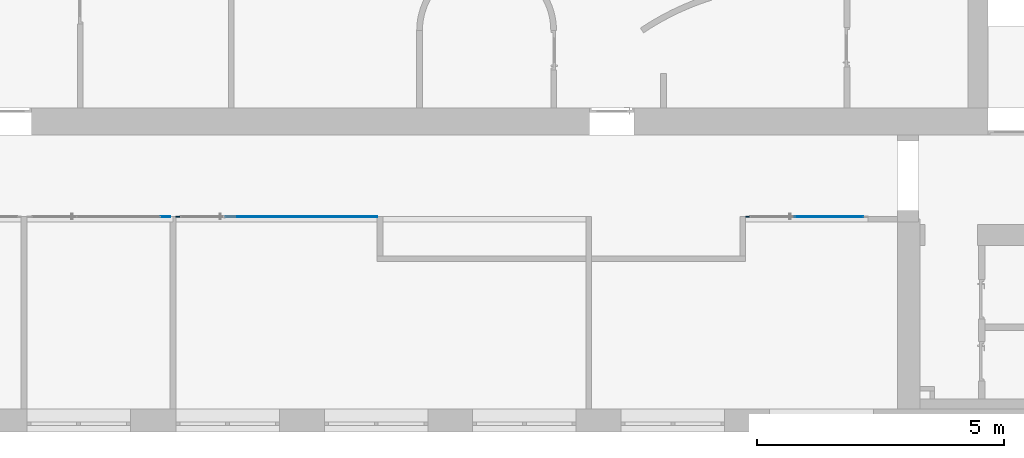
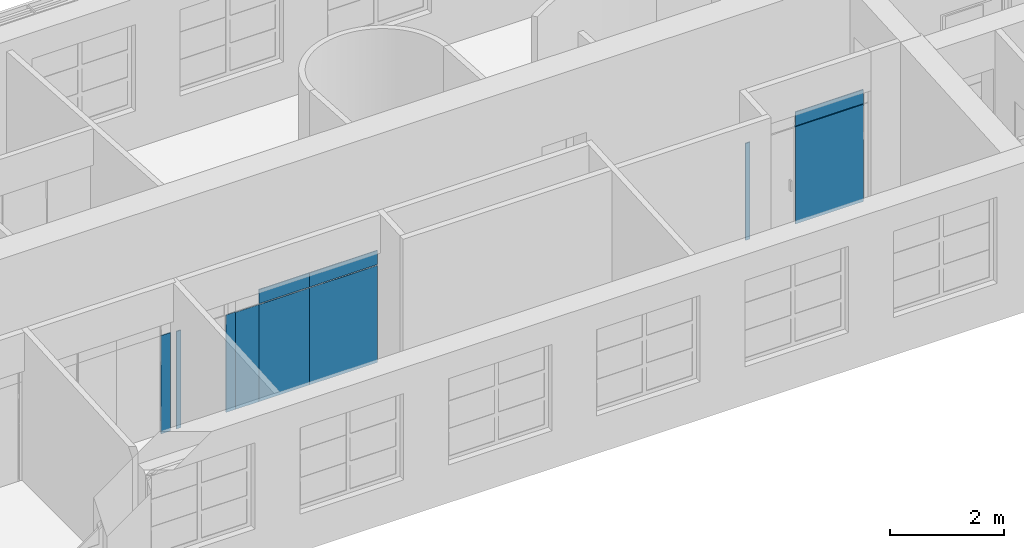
# One storey, part 15 of 46: 12 plates, 3 elements without a shape of their own.
"""IFC2X3 building model written with IfcOpenShell, lengths in millimetres."""

from ifc_helpers import new_model, entity, si_unit, converted_unit, derived_unit, direction, frame, origin, origin_2d_with_axis, place, context, subcontext, project, spatial, rectangle, extrude, source, transform, mapped, material, layer, layer_set, layer_usage, type_object, type_shapes, element, aggregate, save


model = new_model("IFC2X3")

# Units and contexts
model_context = context("Model", 3, precision=0.01, world=origin(), true_north=direction((6.12303176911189e-17, 1.0)))
body_context = subcontext(model_context, "Body", "Model", "MODEL_VIEW")
ifc_project = project(units=[si_unit("LENGTHUNIT", "METRE", prefix="MILLI"), si_unit("AREAUNIT", "SQUARE_METRE"), si_unit("VOLUMEUNIT", "CUBIC_METRE"), converted_unit("PLANEANGLEUNIT", "DEGREE", entity("IfcRatioMeasure", 0.0174532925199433), si_unit("PLANEANGLEUNIT", "RADIAN"), dimensions=[0, 0, 0, 0, 0, 0, 0]), si_unit("MASSUNIT", "GRAM", prefix="KILO"), derived_unit("MASSDENSITYUNIT", [(si_unit("MASSUNIT", "GRAM", prefix="KILO"), 1), (si_unit("LENGTHUNIT", "METRE"), -3)]), si_unit("TIMEUNIT", "SECOND"), si_unit("FREQUENCYUNIT", "HERTZ"), si_unit("THERMODYNAMICTEMPERATUREUNIT", "DEGREE_CELSIUS"), derived_unit("THERMALTRANSMITTANCEUNIT", [(si_unit("MASSUNIT", "GRAM", prefix="KILO"), 1), (si_unit("THERMODYNAMICTEMPERATUREUNIT", "KELVIN"), -1), (si_unit("TIMEUNIT", "SECOND"), -3)]), derived_unit("VOLUMETRICFLOWRATEUNIT", [(si_unit("LENGTHUNIT", "METRE"), 3), (si_unit("TIMEUNIT", "SECOND"), -1)]), si_unit("ELECTRICCURRENTUNIT", "AMPERE"), si_unit("ELECTRICVOLTAGEUNIT", "VOLT"), si_unit("POWERUNIT", "WATT"), si_unit("FORCEUNIT", "NEWTON", prefix="KILO"), si_unit("ILLUMINANCEUNIT", "LUX"), si_unit("LUMINOUSFLUXUNIT", "LUMEN"), si_unit("LUMINOUSINTENSITYUNIT", "CANDELA"), derived_unit("USERDEFINED", [(si_unit("MASSUNIT", "GRAM", prefix="KILO"), -1), (si_unit("LENGTHUNIT", "METRE"), -2), (si_unit("TIMEUNIT", "SECOND"), 3), (si_unit("LUMINOUSFLUXUNIT", "LUMEN"), 1)]), derived_unit("LINEARVELOCITYUNIT", [(si_unit("LENGTHUNIT", "METRE"), 1), (si_unit("TIMEUNIT", "SECOND"), -1)]), si_unit("PRESSUREUNIT", "PASCAL"), derived_unit("USERDEFINED", [(si_unit("LENGTHUNIT", "METRE"), -2), (si_unit("MASSUNIT", "GRAM", prefix="KILO"), 1), (si_unit("TIMEUNIT", "SECOND"), -2)])], contexts=[model_context])

# Site, building, storey
site_placement = place(None, frame((-151.875543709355, 2715.0, 0.0)))
site = spatial("IfcSite", under=ifc_project, at=site_placement, Name="Surface", CompositionType="ELEMENT")
building_placement = place(site_placement, origin())
building = spatial("IfcBuilding", under=site, at=building_placement, CompositionType="ELEMENT")
storey_placement = place(building_placement, frame((0.0, 0.0, 10060.0)))
storey = spatial("IfcBuildingStorey", under=building, at=storey_placement, Name="4 korrus", CompositionType="ELEMENT", Elevation=10060.0000000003)

# Curtain wall, plates
curtain_wall_type_1 = type_object("IfcCurtainWallType", Name="Curtain Wall:Klaassein KLS-20", PredefinedType="NOTDEFINED")
curtain_wall_1_placement = place(storey_placement, frame((0.0, 0.0, -10060.0)))
curtain_wall_1 = element("IfcCurtainWall", 1, at=curtain_wall_1_placement, inside=storey, type_object=curtain_wall_type_1, Name="Curtain Wall:Klaassein KLS-20", ObjectType="Curtain Wall:Klaassein KLS-20")
ifc_material = material(Name="<Unnamed>")
ifc_layer = layer(ifc_material, 20.0)
ifc_layer_set = layer_set([ifc_layer], Name="Curtain Wall:Klaassein KLS-01")
ifc_layer_usage_1 = layer_usage(ifc_layer_set, "AXIS3", "POSITIVE", 0.0)
plate_type_1 = type_object("IfcPlateType", Name="Glazed", PredefinedType="CURTAIN_PANEL", material=ifc_layer_set)
shared_shape_1 = source(origin(), body_context, "Body", "SweptSolid", [
    extrude(rectangle(XDim=20.0, YDim=1378.52311291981, at=origin_2d_with_axis()), frame((0.0, 0.0, 0.0), z_axis=(0.0, 0.0, 1.0), x_axis=(0.0, 1.0, 0.0)), (0.0, 0.0, 1.0), 2090.0),
])
type_shapes(plate_type_1, [shared_shape_1])
plate_1_placement = place(curtain_wall_1_placement, frame((29160.8262828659, 4355.04493399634, 10060.0), z_axis=(0.0, 0.0, 1.0), x_axis=(-1.0, 0.0, 0.0)))
plate_1 = element("IfcPlate", 2, at=plate_1_placement, type_object=plate_type_1, material=ifc_layer_usage_1, Name="System Panel:Glazed", ObjectType="Glazed", context=body_context, shape_type="MappedRepresentation", body=[
    mapped(shared_shape_1, transform((0.0, 0.0, 0.0), scale=1.0)),
])
ifc_layer_usage_2 = layer_usage(ifc_layer_set, "AXIS3", "POSITIVE", 0.0)
plate_type_2 = type_object("IfcPlateType", Name="Glazed", PredefinedType="CURTAIN_PANEL", material=ifc_layer_set)
shared_shape_2 = source(origin(), body_context, "Body", "SweptSolid", [
    extrude(rectangle(XDim=20.0, YDim=1388.52311291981, at=origin_2d_with_axis()), frame((0.0, 0.0, 0.0), z_axis=(0.0, 0.0, 1.0), x_axis=(0.0, 1.0, 0.0)), (0.0, 0.0, 1.0), 9.99999999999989),
])
type_shapes(plate_type_2, [shared_shape_2])
plate_2_placement = place(curtain_wall_1_placement, frame((29155.8262828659, 4355.04493399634, 12150.0), z_axis=(0.0, 0.0, 1.0), x_axis=(-1.0, 0.0, 0.0)))
plate_2 = element("IfcPlate", 3, at=plate_2_placement, type_object=plate_type_2, material=ifc_layer_usage_2, Name="System Panel:Glazed", ObjectType="Glazed", context=body_context, shape_type="MappedRepresentation", body=[
    mapped(shared_shape_2, transform((0.0, 0.0, 0.0), scale=1.0)),
])
ifc_layer_usage_3 = layer_usage(ifc_layer_set, "AXIS3", "POSITIVE", 0.0)
plate_type_3 = type_object("IfcPlateType", Name="Glazed", PredefinedType="CURTAIN_PANEL", material=ifc_layer_set)
shared_shape_3 = source(origin(), body_context, "Body", "SweptSolid", [
    extrude(rectangle(XDim=20.0, YDim=1378.52311291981, at=origin_2d_with_axis()), frame((0.0, 0.0, 0.0), z_axis=(0.0, 0.0, 1.0), x_axis=(0.0, 1.0, 0.0)), (0.0, 0.0, 1.0), 299.999999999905),
])
type_shapes(plate_type_3, [shared_shape_3])
plate_3_placement = place(curtain_wall_1_placement, frame((29160.8262828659, 4355.04493399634, 12160.0), z_axis=(0.0, 0.0, 1.0), x_axis=(-1.0, 0.0, 0.0)))
plate_3 = element("IfcPlate", 4, at=plate_3_placement, type_object=plate_type_3, material=ifc_layer_usage_3, Name="System Panel:Glazed", ObjectType="Glazed", context=body_context, shape_type="MappedRepresentation", body=[
    mapped(shared_shape_3, transform((0.0, 0.0, 0.0), scale=1.0)),
])
ifc_layer_usage_4 = layer_usage(ifc_layer_set, "AXIS3", "POSITIVE", 0.0)
plate_type_4 = type_object("IfcPlateType", Name="Glazed", PredefinedType="CURTAIN_PANEL", material=ifc_layer_set)
shared_shape_4 = source(origin(), body_context, "Body", "SweptSolid", [
    extrude(rectangle(XDim=20.0, YDim=89.9999999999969, at=origin_2d_with_axis()), frame((0.0, 0.0, 0.0), z_axis=(0.0, 0.0, 1.0), x_axis=(0.0, 1.0, 0.0)), (0.0, 0.0, 1.0), 2080.0),
])
type_shapes(plate_type_4, [shared_shape_4])
plate_4_placement = place(curtain_wall_1_placement, frame((27506.564726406, 4355.04493399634, 10060.0), z_axis=(0.0, 0.0, 1.0), x_axis=(-1.0, 0.0, 0.0)))
plate_4 = element("IfcPlate", 5, at=plate_4_placement, type_object=plate_type_4, material=ifc_layer_usage_4, Name="System Panel:Glazed", ObjectType="Glazed", context=body_context, shape_type="MappedRepresentation", body=[
    mapped(shared_shape_4, transform((0.0, 0.0, 0.0), scale=1.0)),
])
aggregate(curtain_wall_1, [plate_1, plate_4, plate_2, plate_3])

curtain_wall_type_2 = type_object("IfcCurtainWallType", Name="Curtain Wall:Klaassein KLS-27", PredefinedType="NOTDEFINED")
curtain_wall_2_placement = place(storey_placement, frame((0.0, 0.0, -10060.0)))
curtain_wall_2 = element("IfcCurtainWall", 6, at=curtain_wall_2_placement, inside=storey, type_object=curtain_wall_type_2, Name="Curtain Wall:Klaassein KLS-27", ObjectType="Curtain Wall:Klaassein KLS-27")
ifc_layer_usage_5 = layer_usage(ifc_layer_set, "AXIS3", "POSITIVE", 0.0)
plate_type_5 = type_object("IfcPlateType", Name="Glazed", PredefinedType="CURTAIN_PANEL", material=ifc_layer_set)
shared_shape_5 = source(origin(), body_context, "Body", "SweptSolid", [
    extrude(rectangle(XDim=20.0, YDim=90.0000000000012, at=origin_2d_with_axis()), frame((0.0, 0.0, 0.0), z_axis=(0.0, 0.0, 1.0), x_axis=(0.0, 1.0, 0.0)), (0.0, 0.0, 1.0), 2090.0),
])
type_shapes(plate_type_5, [shared_shape_5])
plate_5_placement = place(curtain_wall_2_placement, frame((15964.5647264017, 4355.04493399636, 10060.0)))
plate_5 = element("IfcPlate", 7, at=plate_5_placement, type_object=plate_type_5, material=ifc_layer_usage_5, Name="System Panel:Glazed", ObjectType="Glazed", context=body_context, shape_type="MappedRepresentation", body=[
    mapped(shared_shape_5, transform((0.0, 0.0, 0.0), scale=1.0)),
])
ifc_layer_usage_6 = layer_usage(ifc_layer_set, "AXIS3", "POSITIVE", 0.0)
plate_type_6 = type_object("IfcPlateType", Name="Glazed", PredefinedType="CURTAIN_PANEL", material=ifc_layer_set)
shared_shape_6 = source(origin(), body_context, "Body", "SweptSolid", [
    extrude(rectangle(XDim=20.0, YDim=191.283442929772, at=origin_2d_with_axis()), frame((0.0, 0.0, 0.0), z_axis=(0.0, 0.0, 1.0), x_axis=(0.0, 1.0, 0.0)), (0.0, 0.0, 1.0), 2090.0),
])
type_shapes(plate_type_6, [shared_shape_6])
plate_6_placement = place(curtain_wall_2_placement, frame((17025.2064478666, 4355.04493399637, 10060.0)))
plate_6 = element("IfcPlate", 8, at=plate_6_placement, type_object=plate_type_6, material=ifc_layer_usage_6, Name="System Panel:Glazed", ObjectType="Glazed", context=body_context, shape_type="MappedRepresentation", body=[
    mapped(shared_shape_6, transform((0.0, 0.0, 0.0), scale=1.0)),
])
ifc_layer_usage_7 = layer_usage(ifc_layer_set, "AXIS3", "POSITIVE", 0.0)
plate_type_7 = type_object("IfcPlateType", Name="Glazed", PredefinedType="CURTAIN_PANEL", material=ifc_layer_set)
shared_shape_7 = source(origin(), body_context, "Body", "SweptSolid", [
    extrude(rectangle(XDim=20.0, YDim=473.855383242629, at=origin_2d_with_axis()), frame((0.0, 0.0, 0.0), z_axis=(0.0, 0.0, 1.0), x_axis=(0.0, 1.0, 0.0)), (0.0, 0.0, 1.0), 2080.0),
])
type_shapes(plate_type_7, [shared_shape_7])
plate_7_placement = place(curtain_wall_2_placement, frame((17357.7758609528, 4355.04493399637, 10060.0)))
plate_7 = element("IfcPlate", 9, at=plate_7_placement, type_object=plate_type_7, material=ifc_layer_usage_7, Name="System Panel:Glazed", ObjectType="Glazed", context=body_context, shape_type="MappedRepresentation", body=[
    mapped(shared_shape_7, transform((0.0, 0.0, 0.0), scale=1.0)),
])
ifc_layer_usage_8 = layer_usage(ifc_layer_set, "AXIS3", "POSITIVE", 0.0)
plate_type_8 = type_object("IfcPlateType", Name="Glazed", PredefinedType="CURTAIN_PANEL", material=ifc_layer_set)
shared_shape_8 = source(origin(), body_context, "Body", "SweptSolid", [
    extrude(rectangle(XDim=20.0, YDim=1024.8611741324, at=origin_2d_with_axis()), frame((0.0, 0.0, 0.0), z_axis=(0.0, 0.0, 1.0), x_axis=(0.0, 1.0, 0.0)), (0.0, 0.0, 1.0), 2080.0),
])
type_shapes(plate_type_8, [shared_shape_8])
plate_8_placement = place(curtain_wall_2_placement, frame((18107.1341396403, 4355.04493399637, 10060.0)))
plate_8 = element("IfcPlate", 10, at=plate_8_placement, type_object=plate_type_8, material=ifc_layer_usage_8, Name="System Panel:Glazed", ObjectType="Glazed", context=body_context, shape_type="MappedRepresentation", body=[
    mapped(shared_shape_8, transform((0.0, 0.0, 0.0), scale=1.0)),
])
ifc_layer_usage_9 = layer_usage(ifc_layer_set, "AXIS3", "POSITIVE", 0.0)
plate_type_9 = type_object("IfcPlateType", Name="Glazed", PredefinedType="CURTAIN_PANEL", material=ifc_layer_set)
shared_shape_9 = source(origin(), body_context, "Body", "SweptSolid", [
    extrude(rectangle(XDim=20.0, YDim=1379.99956818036, at=origin_2d_with_axis()), frame((0.0, 0.0, 0.0), z_axis=(0.0, 0.0, 1.0), x_axis=(0.0, 1.0, 0.0)), (0.0, 0.0, 1.0), 2080.0),
])
type_shapes(plate_type_9, [shared_shape_9])
plate_9_placement = place(curtain_wall_2_placement, frame((19309.5645107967, 4355.04493399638, 10060.0)))
plate_9 = element("IfcPlate", 11, at=plate_9_placement, type_object=plate_type_9, material=ifc_layer_usage_9, Name="System Panel:Glazed", ObjectType="Glazed", context=body_context, shape_type="MappedRepresentation", body=[
    mapped(shared_shape_9, transform((0.0, 0.0, 0.0), scale=1.0)),
])
ifc_layer_usage_10 = layer_usage(ifc_layer_set, "AXIS3", "POSITIVE", 0.0)
plate_type_10 = type_object("IfcPlateType", Name="Glazed", PredefinedType="CURTAIN_PANEL", material=ifc_layer_set)
shared_shape_10 = source(origin(), body_context, "Body", "SweptSolid", [
    extrude(rectangle(XDim=20.0, YDim=1024.8611741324, at=origin_2d_with_axis()), frame((0.0, 0.0, 0.0), z_axis=(0.0, 0.0, 1.0), x_axis=(0.0, 1.0, 0.0)), (0.0, 0.0, 1.0), 299.999999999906),
])
type_shapes(plate_type_10, [shared_shape_10])
plate_10_placement = place(curtain_wall_2_placement, frame((18107.1341396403, 4355.04493399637, 12160.0)))
plate_10 = element("IfcPlate", 12, at=plate_10_placement, type_object=plate_type_10, material=ifc_layer_usage_10, Name="System Panel:Glazed", ObjectType="Glazed", context=body_context, shape_type="MappedRepresentation", body=[
    mapped(shared_shape_10, transform((0.0, 0.0, 0.0), scale=1.0)),
])
ifc_layer_usage_11 = layer_usage(ifc_layer_set, "AXIS3", "POSITIVE", 0.0)
plate_type_11 = type_object("IfcPlateType", Name="Glazed", PredefinedType="CURTAIN_PANEL", material=ifc_layer_set)
shared_shape_11 = source(origin(), body_context, "Body", "SweptSolid", [
    extrude(rectangle(XDim=20.0, YDim=1379.99956818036, at=origin_2d_with_axis()), frame((0.0, 0.0, 0.0), z_axis=(0.0, 0.0, 1.0), x_axis=(0.0, 1.0, 0.0)), (0.0, 0.0, 1.0), 299.999999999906),
])
type_shapes(plate_type_11, [shared_shape_11])
plate_11_placement = place(curtain_wall_2_placement, frame((19309.5645107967, 4355.04493399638, 12160.0)))
plate_11 = element("IfcPlate", 13, at=plate_11_placement, type_object=plate_type_11, material=ifc_layer_usage_11, Name="System Panel:Glazed", ObjectType="Glazed", context=body_context, shape_type="MappedRepresentation", body=[
    mapped(shared_shape_11, transform((0.0, 0.0, 0.0), scale=1.0)),
])
aggregate(curtain_wall_2, [plate_5, plate_6, plate_7, plate_8, plate_9, plate_10, plate_11])

# Curtain wall, plate
curtain_wall_type_3 = type_object("IfcCurtainWallType", Name="Curtain Wall:Klaassein KLS-26", PredefinedType="NOTDEFINED")
curtain_wall_3_placement = place(storey_placement, frame((0.0, 0.0, -10060.0)))
curtain_wall_3 = element("IfcCurtainWall", 14, at=curtain_wall_3_placement, inside=storey, type_object=curtain_wall_type_3, Name="Curtain Wall:Klaassein KLS-26", ObjectType="Curtain Wall:Klaassein KLS-26")
ifc_layer_usage_12 = layer_usage(ifc_layer_set, "AXIS3", "POSITIVE", 0.0)
plate_type_12 = type_object("IfcPlateType", Name="Glazed", PredefinedType="CURTAIN_PANEL", material=ifc_layer_set)
shared_shape_12 = source(origin(), body_context, "Body", "SweptSolid", [
    extrude(rectangle(XDim=20.0, YDim=193.999999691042, at=origin_2d_with_axis()), frame((0.0, 0.0, 0.0), z_axis=(0.0, 0.0, 1.0), x_axis=(0.0, 1.0, 0.0)), (0.0, 0.0, 1.0), 2110.0),
])
type_shapes(plate_type_12, [shared_shape_12])
plate_12_placement = place(curtain_wall_3_placement, frame((15706.5647265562, 4355.19562687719, 10060.0)))
plate_12 = element("IfcPlate", 15, at=plate_12_placement, type_object=plate_type_12, material=ifc_layer_usage_12, Name="System Panel:Glazed", ObjectType="Glazed", context=body_context, shape_type="MappedRepresentation", body=[
    mapped(shared_shape_12, transform((0.0, 0.0, 0.0), scale=1.0)),
])
aggregate(curtain_wall_3, [plate_12])

save(model, "model.ifc")
